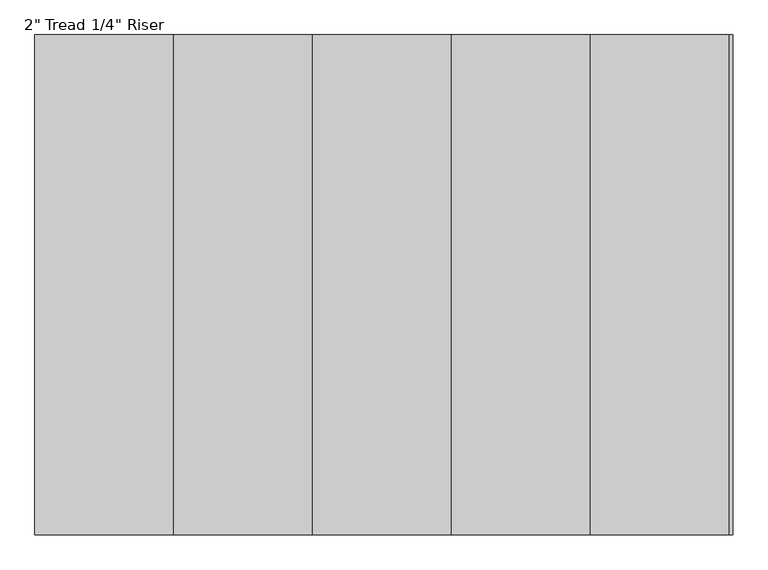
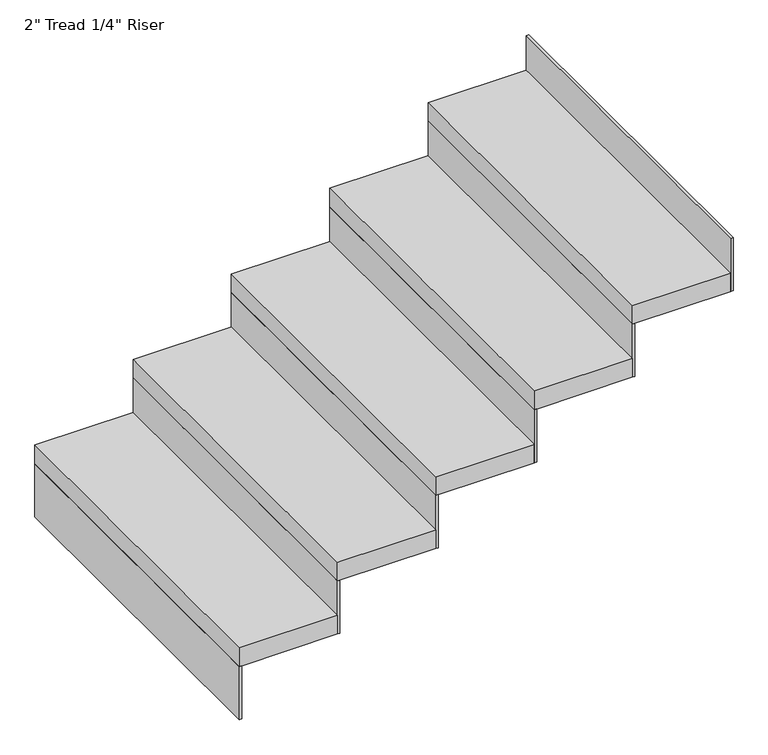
"""IFC4 building model written with IfcOpenShell, lengths in millimetres: stair flight geometry."""

from ifc_helpers import new_model, si_unit, frame, origin, place, context, project, spatial, polyline, outline, extrude, source, transform, mapped, element, save


def stair_flight_3f810ed6(model_context):
    return source(origin(), model_context, "Body", "SweptSolid", [
        extrude(outline(polyline([(29189.1612561, -2366.2617549), (29182.8112561, -2366.2617549), (29182.8112561, -1451.8617549), (29189.1612561, -1451.8617549), (29189.1612561, -2366.2617549)])), frame((0.0, 0.0, 2126.3428571), z_axis=(0.0, 0.0, 1.0), x_axis=(1.0, 0.0, 0.0)), (0.0, 0.0, 1.0), 145.1428571),
        extrude(outline(polyline([(29436.8112561, -1451.8617549), (29436.8112561, -2366.2617549), (29182.8112561, -2366.2617549), (29182.8112561, -1451.8617549), (29436.8112561, -1451.8617549)])), frame((0.0, 0.0, 2271.4857143), z_axis=(0.0, 0.0, 1.0), x_axis=(1.0, 0.0, 0.0)), (0.0, 0.0, 1.0), 50.8),
        extrude(outline(polyline([(29443.1612561, -2366.2617549), (29436.8112561, -2366.2617549), (29436.8112561, -1451.8617549), (29443.1612561, -1451.8617549), (29443.1612561, -2366.2617549)])), frame((0.0, 0.0, 2271.4857143), z_axis=(0.0, 0.0, 1.0), x_axis=(1.0, 0.0, 0.0)), (0.0, 0.0, 1.0), 145.1428571),
        extrude(outline(polyline([(29690.8112561, -1451.8617549), (29690.8112561, -2366.2617549), (29436.8112561, -2366.2617549), (29436.8112561, -1451.8617549), (29690.8112561, -1451.8617549)])), frame((0.0, 0.0, 2416.6285714), z_axis=(0.0, 0.0, 1.0), x_axis=(1.0, 0.0, 0.0)), (0.0, 0.0, 1.0), 50.8),
        extrude(outline(polyline([(29697.1612561, -2366.2617549), (29690.8112561, -2366.2617549), (29690.8112561, -1451.8617549), (29697.1612561, -1451.8617549), (29697.1612561, -2366.2617549)])), frame((0.0, 0.0, 2416.6285714), z_axis=(0.0, 0.0, 1.0), x_axis=(1.0, 0.0, 0.0)), (0.0, 0.0, 1.0), 145.1428571),
        extrude(outline(polyline([(29944.8112561, -1451.8617549), (29944.8112561, -2366.2617549), (29690.8112561, -2366.2617549), (29690.8112561, -1451.8617549), (29944.8112561, -1451.8617549)])), frame((0.0, 0.0, 2561.7714286), z_axis=(0.0, 0.0, 1.0), x_axis=(1.0, 0.0, 0.0)), (0.0, 0.0, 1.0), 50.8),
        extrude(outline(polyline([(29951.1612561, -2366.2617549), (29944.8112561, -2366.2617549), (29944.8112561, -1451.8617549), (29951.1612561, -1451.8617549), (29951.1612561, -2366.2617549)])), frame((0.0, 0.0, 2561.7714286), z_axis=(0.0, 0.0, 1.0), x_axis=(1.0, 0.0, 0.0)), (0.0, 0.0, 1.0), 145.1428571),
        extrude(outline(polyline([(30198.8112561, -1451.8617549), (30198.8112561, -2366.2617549), (29944.8112561, -2366.2617549), (29944.8112561, -1451.8617549), (30198.8112561, -1451.8617549)])), frame((0.0, 0.0, 2706.9142857), z_axis=(0.0, 0.0, 1.0), x_axis=(1.0, 0.0, 0.0)), (0.0, 0.0, 1.0), 50.8),
        extrude(outline(polyline([(30205.1612561, -2366.2617549), (30198.8112561, -2366.2617549), (30198.8112561, -1451.8617549), (30205.1612561, -1451.8617549), (30205.1612561, -2366.2617549)])), frame((0.0, 0.0, 2706.9142857), z_axis=(0.0, 0.0, 1.0), x_axis=(1.0, 0.0, 0.0)), (0.0, 0.0, 1.0), 145.1428571),
        extrude(outline(polyline([(30459.1612561, -2366.2617549), (30452.8112561, -2366.2617549), (30452.8112561, -1451.8617549), (30459.1612561, -1451.8617549), (30459.1612561, -2366.2617549)])), frame((0.0, 0.0, 2852.0571429), z_axis=(0.0, 0.0, 1.0), x_axis=(1.0, 0.0, 0.0)), (0.0, 0.0, 1.0), 145.1428571),
        extrude(outline(polyline([(30452.8112561, -1451.8617549), (30452.8112561, -2366.2617549), (30198.8112561, -2366.2617549), (30198.8112561, -1451.8617549), (30452.8112561, -1451.8617549)])), frame((0.0, 0.0, 2852.0571429), z_axis=(0.0, 0.0, 1.0), x_axis=(1.0, 0.0, 0.0)), (0.0, 0.0, 1.0), 50.8),
    ])


if __name__ == "__main__":
    model = new_model("IFC4")
    model_context = context("Model", 3, world=origin())
    ifc_project = project(units=[si_unit("LENGTHUNIT", "METRE", prefix="MILLI")], contexts=[model_context])
    site = spatial("IfcSite", under=ifc_project)
    building = spatial("IfcBuilding", under=site)
    placement = place(None, origin())
    stair_flight_shape = stair_flight_3f810ed6(model_context)
    element("IfcStairFlight", 1, ObjectType="2\" Tread 1/4\" Riser", at=placement, inside=building, context=model_context, shape_type="MappedRepresentation", body=[
        mapped(stair_flight_shape, transform((0.0, 0.0, 0.0), x_axis=(1.0, 0.0, 0.0), y_axis=(0.0, 1.0, 0.0), z_axis=(0.0, 0.0, 1.0))),
    ])
    save(model, "model.ifc")
